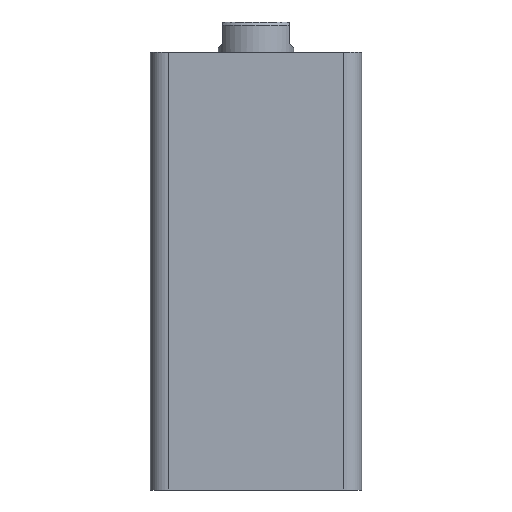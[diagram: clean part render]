
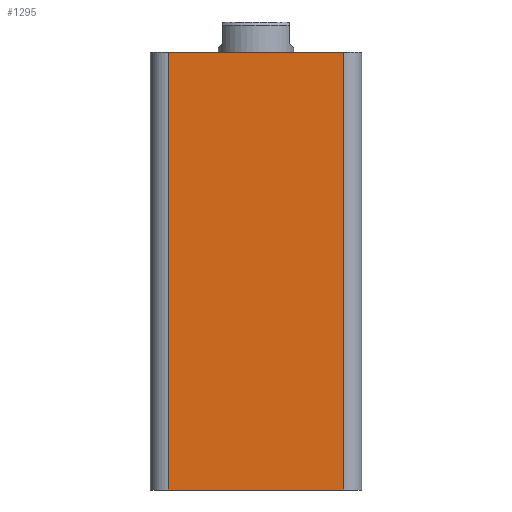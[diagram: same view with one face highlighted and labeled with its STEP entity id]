
A CAD part, front view. The second image highlights one B-rep face of the part: STEP entity #1295.
In plain terms, the highlighted planar face has unit normal (0, -1, 0).
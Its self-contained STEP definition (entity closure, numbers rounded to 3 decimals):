
#303 = EDGE_LOOP ( 'NONE', ( #1245, #1209, #1214, #1229 ) ) ;
#528 = AXIS2_PLACEMENT_3D ( 'NONE', #2224, #2216, #2215 ) ;
#821 = VECTOR ( 'NONE', #1707, 1000. ) ;
#823 = VECTOR ( 'NONE', #1726, 1000. ) ;
#824 = LINE ( 'NONE', #1712, #821 ) ;
#825 = VECTOR ( 'NONE', #1725, 1000. ) ;
#827 = VECTOR ( 'NONE', #1734, 1000. ) ;
#828 = LINE ( 'NONE', #1730, #825 ) ;
#831 = LINE ( 'NONE', #1739, #827 ) ;
#837 = LINE ( 'NONE', #1903, #823 ) ;
#1090 = FACE_OUTER_BOUND ( 'NONE', #303, .T. ) ;
#1134 = VERTEX_POINT ( 'NONE', #2327 ) ;
#1142 = VERTEX_POINT ( 'NONE', #2318 ) ;
#1148 = VERTEX_POINT ( 'NONE', #2312 ) ;
#1152 = VERTEX_POINT ( 'NONE', #2308 ) ;
#1209 = ORIENTED_EDGE ( 'NONE', *, *, #2557, .T. ) ;
#1214 = ORIENTED_EDGE ( 'NONE', *, *, #2558, .T. ) ;
#1229 = ORIENTED_EDGE ( 'NONE', *, *, #2559, .T. ) ;
#1245 = ORIENTED_EDGE ( 'NONE', *, *, #2556, .F. ) ;
#1295 = ADVANCED_FACE ( 'NONE', ( #1090 ), #2220, .F. ) ;
#1707 = DIRECTION ( 'NONE',  ( 0., 0., 1. ) ) ;
#1712 = CARTESIAN_POINT ( 'NONE',  ( 29., -35., 145. ) ) ;
#1725 = DIRECTION ( 'NONE',  ( 0., 0., -1. ) ) ;
#1726 = DIRECTION ( 'NONE',  ( 1., 0., 0. ) ) ;
#1730 = CARTESIAN_POINT ( 'NONE',  ( -29., -35., 145. ) ) ;
#1734 = DIRECTION ( 'NONE',  ( 1., 0., 0. ) ) ;
#1739 = CARTESIAN_POINT ( 'NONE',  ( -35., -35., 145. ) ) ;
#1903 = CARTESIAN_POINT ( 'NONE',  ( -35., -35., 0. ) ) ;
#2215 = DIRECTION ( 'NONE',  ( 0., 0., 1. ) ) ;
#2216 = DIRECTION ( 'NONE',  ( 0., 1., 0. ) ) ;
#2220 = PLANE ( 'NONE',  #528 ) ;
#2224 = CARTESIAN_POINT ( 'NONE',  ( -35., -35., 145. ) ) ;
#2308 = CARTESIAN_POINT ( 'NONE',  ( 29., -35., 145. ) ) ;
#2312 = CARTESIAN_POINT ( 'NONE',  ( -29., -35., 145. ) ) ;
#2318 = CARTESIAN_POINT ( 'NONE',  ( 29., -35., 0. ) ) ;
#2327 = CARTESIAN_POINT ( 'NONE',  ( -29., -35., 0. ) ) ;
#2556 = EDGE_CURVE ( 'NONE', #1148, #1152, #831, .T. ) ;
#2557 = EDGE_CURVE ( 'NONE', #1148, #1134, #828, .T. ) ;
#2558 = EDGE_CURVE ( 'NONE', #1134, #1142, #837, .T. ) ;
#2559 = EDGE_CURVE ( 'NONE', #1142, #1152, #824, .T. ) ;
